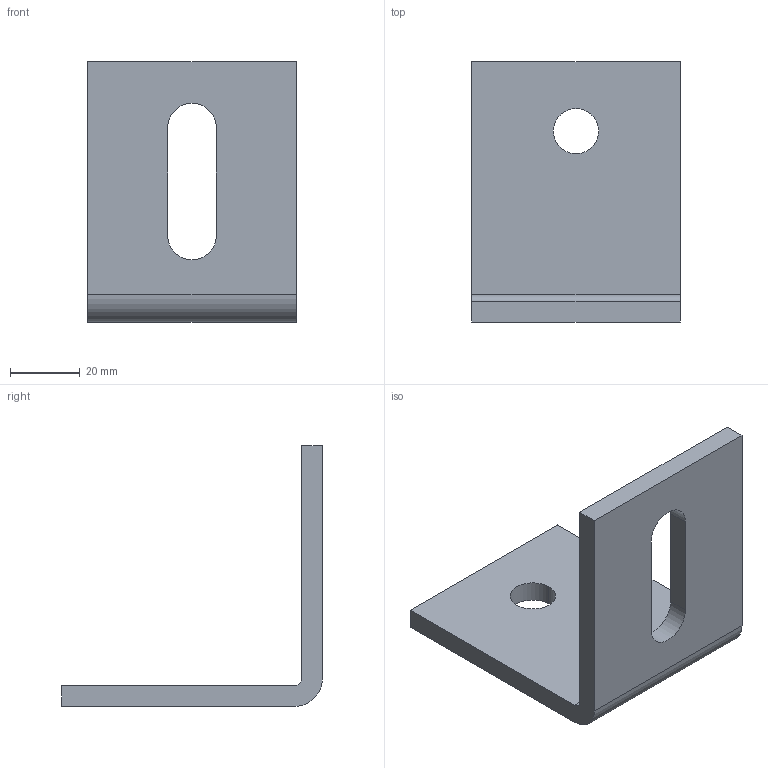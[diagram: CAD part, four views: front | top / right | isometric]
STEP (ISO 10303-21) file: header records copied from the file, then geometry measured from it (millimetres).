
FILE_DESCRIPTION (( 'STEP AP203' ), '1' );
FILE_NAME ('110A.STEP', '2020-10-19T13:43:56', ( '' ), ( '' ), 'SwSTEP 2.0', 'SolidWorks 2013', '' );
FILE_SCHEMA (( 'CONFIG_CONTROL_DESIGN' ));
Length unit declared in the file: millimetre
Products named in the file (1): 110A
Bounding box: 60 x 75 x 75 mm (x, y, z)
Volume: 46743.4 mm3; surface area: 18884.3 mm2
Topology: 1 solids, 1 shells, 17 faces, 45 edges, 30 vertices
Faces by surface type: plane 10, cylinder 7
Entity records: 618 total; most frequent: DIRECTION 95, CARTESIAN_POINT 93, ORIENTED_EDGE 90, EDGE_CURVE 45, AXIS2_PLACEMENT_3D 32, LINE 31, VECTOR 31, VERTEX_POINT 30
